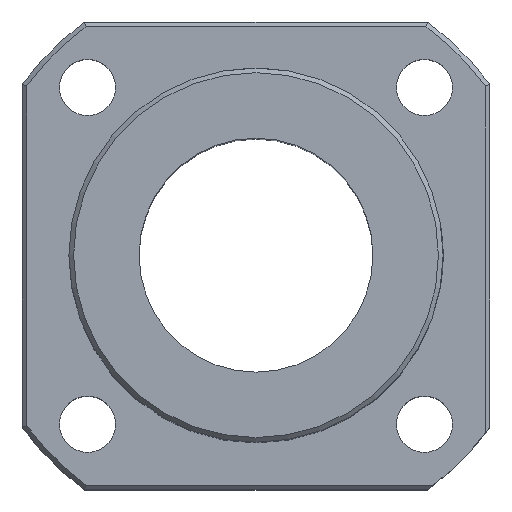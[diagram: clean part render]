
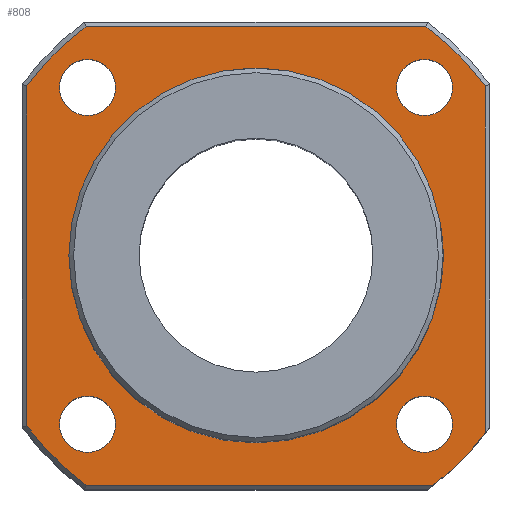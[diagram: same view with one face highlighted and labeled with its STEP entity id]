
A CAD part, top view. The second image highlights one B-rep face of the part: STEP entity #808.
In plain terms, the highlighted planar face has unit normal (0, 0, 1).
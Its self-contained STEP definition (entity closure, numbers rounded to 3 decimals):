
#531=CARTESIAN_POINT('',(18.993,-24.5,16.0));
#532=VERTEX_POINT('',#531);
#540=CARTESIAN_POINT('',(-18.166,-24.5,16.0));
#541=VERTEX_POINT('',#540);
#542=CARTESIAN_POINT('',(18.993,-24.5,16.0));
#543=DIRECTION('',(-1.0,0.0,0.0));
#544=VECTOR('',#543,37.159);
#545=LINE('',#542,#544);
#546=EDGE_CURVE('',#532,#541,#545,.T.);
#571=CARTESIAN_POINT('',(-24.5,-18.166,16.0));
#572=VERTEX_POINT('',#571);
#573=CARTESIAN_POINT('',(0.0,0.0,16.0));
#574=DIRECTION('',(0.0,0.0,-1.0));
#575=DIRECTION('',(-1.0,0.0,0.0));
#576=AXIS2_PLACEMENT_3D('',#573,#574,#575);
#577=CIRCLE('',#576,30.5);
#578=EDGE_CURVE('',#541,#572,#577,.T.);
#603=CARTESIAN_POINT('',(-24.5,18.166,16.0));
#604=VERTEX_POINT('',#603);
#605=CARTESIAN_POINT('',(-24.5,-18.166,16.0));
#606=DIRECTION('',(0.0,1.0,0.0));
#607=VECTOR('',#606,36.332);
#608=LINE('',#605,#607);
#609=EDGE_CURVE('',#572,#604,#608,.T.);
#628=CARTESIAN_POINT('',(-18.166,24.5,16.0));
#629=VERTEX_POINT('',#628);
#630=CARTESIAN_POINT('',(0.0,0.0,16.0));
#631=DIRECTION('',(0.0,0.0,-1.0));
#632=DIRECTION('',(-1.0,0.0,0.0));
#633=AXIS2_PLACEMENT_3D('',#630,#631,#632);
#634=CIRCLE('',#633,30.5);
#635=EDGE_CURVE('',#604,#629,#634,.T.);
#654=CARTESIAN_POINT('',(18.166,24.5,16.0));
#655=VERTEX_POINT('',#654);
#656=CARTESIAN_POINT('',(-18.166,24.5,16.0));
#657=DIRECTION('',(1.0,0.0,0.0));
#658=VECTOR('',#657,36.332);
#659=LINE('',#656,#658);
#660=EDGE_CURVE('',#629,#655,#659,.T.);
#679=CARTESIAN_POINT('',(24.5,18.166,16.0));
#680=VERTEX_POINT('',#679);
#681=CARTESIAN_POINT('',(0.0,0.0,16.0));
#682=DIRECTION('',(0.0,0.0,-1.0));
#683=DIRECTION('',(1.0,0.0,0.0));
#684=AXIS2_PLACEMENT_3D('',#681,#682,#683);
#685=CIRCLE('',#684,30.5);
#686=EDGE_CURVE('',#655,#680,#685,.T.);
#705=CARTESIAN_POINT('',(24.5,-18.993,16.0));
#706=VERTEX_POINT('',#705);
#723=CARTESIAN_POINT('',(24.5,18.166,16.0));
#724=DIRECTION('',(0.0,-1.0,0.0));
#725=VECTOR('',#724,37.159);
#726=LINE('',#723,#725);
#727=EDGE_CURVE('',#680,#706,#726,.T.);
#732=CARTESIAN_POINT('',(0.,0.,16.0));
#733=DIRECTION('',(0.0,0.0,1.0));
#734=DIRECTION('',(1.0,0.0,0.0));
#735=AXIS2_PLACEMENT_3D('',#732,#733,#734);
#736=PLANE('',#735);
#737=ORIENTED_EDGE('',*,*,#727,.F.);
#738=ORIENTED_EDGE('',*,*,#686,.F.);
#739=ORIENTED_EDGE('',*,*,#660,.F.);
#740=ORIENTED_EDGE('',*,*,#635,.F.);
#741=ORIENTED_EDGE('',*,*,#609,.F.);
#742=ORIENTED_EDGE('',*,*,#578,.F.);
#743=ORIENTED_EDGE('',*,*,#546,.F.);
#744=CARTESIAN_POINT('',(0.0,0.0,16.0));
#745=DIRECTION('',(0.0,0.0,-1.0));
#746=DIRECTION('',(1.0,0.0,0.0));
#747=AXIS2_PLACEMENT_3D('',#744,#745,#746);
#748=CIRCLE('',#747,31.0);
#749=EDGE_CURVE('',#706,#532,#748,.T.);
#750=ORIENTED_EDGE('',*,*,#749,.F.);
#751=EDGE_LOOP('',(#737,#738,#739,#740,#741,#742,#743,#750));
#752=FACE_OUTER_BOUND('',#751,.T.);
#753=CARTESIAN_POINT('',(20.0,0.,16.0));
#754=VERTEX_POINT('',#753);
#755=CARTESIAN_POINT('',(0.0,0.0,16.0));
#756=DIRECTION('',(0.0,0.0,-1.0));
#757=DIRECTION('',(-1.0,0.0,0.0));
#758=AXIS2_PLACEMENT_3D('',#755,#756,#757);
#759=CIRCLE('',#758,20.0);
#760=EDGE_CURVE('',#754,#754,#759,.T.);
#761=ORIENTED_EDGE('',*,*,#760,.T.);
#762=EDGE_LOOP('',(#761));
#763=FACE_BOUND('',#762,.T.);
#764=CARTESIAN_POINT('',(-21.0,18.0,16.));
#765=VERTEX_POINT('',#764);
#766=CARTESIAN_POINT('',(-18.0,18.0,16.));
#767=DIRECTION('',(0.0,0.0,-1.0));
#768=DIRECTION('',(1.0,0.0,0.0));
#769=AXIS2_PLACEMENT_3D('',#766,#767,#768);
#770=CIRCLE('',#769,3.);
#771=EDGE_CURVE('',#765,#765,#770,.T.);
#772=ORIENTED_EDGE('',*,*,#771,.T.);
#773=EDGE_LOOP('',(#772));
#774=FACE_BOUND('',#773,.T.);
#775=CARTESIAN_POINT('',(15.0,18.0,16.));
#776=VERTEX_POINT('',#775);
#777=CARTESIAN_POINT('',(18.0,18.0,16.));
#778=DIRECTION('',(0.0,0.0,-1.0));
#779=DIRECTION('',(1.0,0.0,0.0));
#780=AXIS2_PLACEMENT_3D('',#777,#778,#779);
#781=CIRCLE('',#780,3.);
#782=EDGE_CURVE('',#776,#776,#781,.T.);
#783=ORIENTED_EDGE('',*,*,#782,.T.);
#784=EDGE_LOOP('',(#783));
#785=FACE_BOUND('',#784,.T.);
#786=CARTESIAN_POINT('',(-21.0,-18.,16.));
#787=VERTEX_POINT('',#786);
#788=CARTESIAN_POINT('',(-18.0,-18.,16.));
#789=DIRECTION('',(0.0,0.0,-1.0));
#790=DIRECTION('',(1.0,0.0,0.0));
#791=AXIS2_PLACEMENT_3D('',#788,#789,#790);
#792=CIRCLE('',#791,3.);
#793=EDGE_CURVE('',#787,#787,#792,.T.);
#794=ORIENTED_EDGE('',*,*,#793,.T.);
#795=EDGE_LOOP('',(#794));
#796=FACE_BOUND('',#795,.T.);
#797=CARTESIAN_POINT('',(15.0,-18.,16.));
#798=VERTEX_POINT('',#797);
#799=CARTESIAN_POINT('',(18.0,-18.,16.));
#800=DIRECTION('',(0.0,0.0,-1.0));
#801=DIRECTION('',(1.0,0.0,0.0));
#802=AXIS2_PLACEMENT_3D('',#799,#800,#801);
#803=CIRCLE('',#802,3.);
#804=EDGE_CURVE('',#798,#798,#803,.T.);
#805=ORIENTED_EDGE('',*,*,#804,.T.);
#806=EDGE_LOOP('',(#805));
#807=FACE_BOUND('',#806,.T.);
#808=ADVANCED_FACE('',(#752,#763,#774,#785,#796,#807),#736,.T.);
